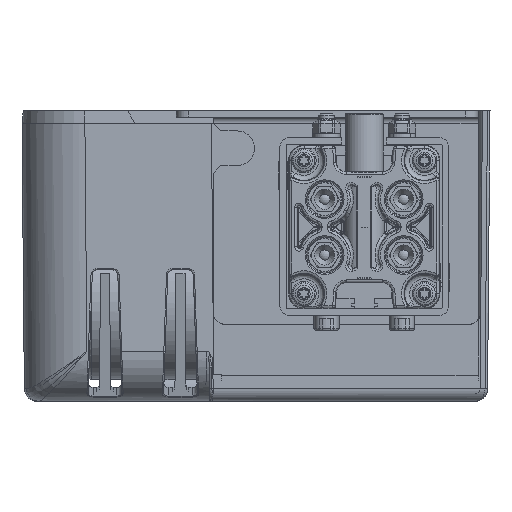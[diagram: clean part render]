
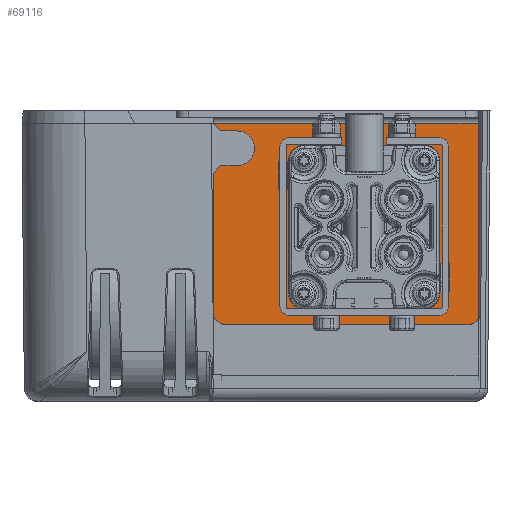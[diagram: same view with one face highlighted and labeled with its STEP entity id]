
A CAD part, left-side view. The second image highlights one B-rep face of the part: STEP entity #69116.
In plain terms, the highlighted planar face has unit normal (-1, 0, 0) as drawn and (0, 0, 1) by its records, which use the part's own axes.
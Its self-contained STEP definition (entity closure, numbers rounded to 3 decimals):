
#7376=LINE('',#128810,#11049);
#7377=LINE('',#128813,#11050);
#7378=LINE('',#128815,#11051);
#7379=LINE('',#128817,#11052);
#7380=LINE('',#128818,#11053);
#7381=LINE('',#128821,#11054);
#7382=LINE('',#128823,#11055);
#7383=LINE('',#128825,#11056);
#7384=LINE('',#128834,#11057);
#7385=LINE('',#128837,#11058);
#7386=LINE('',#128839,#11059);
#7387=LINE('',#128841,#11060);
#7388=LINE('',#128843,#11061);
#7389=LINE('',#128845,#11062);
#7390=LINE('',#128847,#11063);
#7391=LINE('',#128849,#11064);
#7392=LINE('',#128851,#11065);
#7393=LINE('',#128853,#11066);
#11049=VECTOR('',#83059,1000.);
#11050=VECTOR('',#83060,1000.);
#11051=VECTOR('',#83061,1000.);
#11052=VECTOR('',#83062,1000.);
#11053=VECTOR('',#83063,1000.);
#11054=VECTOR('',#83064,1000.);
#11055=VECTOR('',#83065,1000.);
#11056=VECTOR('',#83066,1000.);
#11057=VECTOR('',#83075,1000.);
#11058=VECTOR('',#83076,1000.);
#11059=VECTOR('',#83077,1000.);
#11060=VECTOR('',#83078,1000.);
#11061=VECTOR('',#83079,1000.);
#11062=VECTOR('',#83080,1000.);
#11063=VECTOR('',#83081,1000.);
#11064=VECTOR('',#83082,1000.);
#11065=VECTOR('',#83083,1000.);
#11066=VECTOR('',#83084,1000.);
#13430=PLANE('',#73654);
#22037=ORIENTED_EDGE('',*,*,#36993,.T.);
#22038=ORIENTED_EDGE('',*,*,#36994,.T.);
#22039=ORIENTED_EDGE('',*,*,#36995,.T.);
#22040=ORIENTED_EDGE('',*,*,#36996,.T.);
#22041=ORIENTED_EDGE('',*,*,#36997,.T.);
#22042=ORIENTED_EDGE('',*,*,#36998,.T.);
#22043=ORIENTED_EDGE('',*,*,#36999,.T.);
#22044=ORIENTED_EDGE('',*,*,#37000,.T.);
#22045=ORIENTED_EDGE('',*,*,#37001,.F.);
#22046=ORIENTED_EDGE('',*,*,#37002,.F.);
#22047=ORIENTED_EDGE('',*,*,#37003,.F.);
#22048=ORIENTED_EDGE('',*,*,#37004,.F.);
#22049=ORIENTED_EDGE('',*,*,#37005,.F.);
#22050=ORIENTED_EDGE('',*,*,#37006,.T.);
#22051=ORIENTED_EDGE('',*,*,#37007,.F.);
#22052=ORIENTED_EDGE('',*,*,#37008,.F.);
#22053=ORIENTED_EDGE('',*,*,#37009,.F.);
#22054=ORIENTED_EDGE('',*,*,#37010,.T.);
#22055=ORIENTED_EDGE('',*,*,#37011,.F.);
#22056=ORIENTED_EDGE('',*,*,#37012,.T.);
#22057=ORIENTED_EDGE('',*,*,#37013,.T.);
#22058=ORIENTED_EDGE('',*,*,#37014,.F.);
#22059=ORIENTED_EDGE('',*,*,#37015,.F.);
#36993=EDGE_CURVE('',#45025,#45026,#7376,.T.);
#36994=EDGE_CURVE('',#45026,#45027,#7377,.T.);
#36995=EDGE_CURVE('',#45027,#45028,#7378,.T.);
#36996=EDGE_CURVE('',#45028,#45025,#7379,.T.);
#36997=EDGE_CURVE('',#45029,#45030,#7380,.T.);
#36998=EDGE_CURVE('',#45030,#45031,#7381,.T.);
#36999=EDGE_CURVE('',#45031,#45032,#7382,.T.);
#37000=EDGE_CURVE('',#45032,#45029,#7383,.T.);
#37001=EDGE_CURVE('',#45033,#45033,#49598,.T.);
#37002=EDGE_CURVE('',#45034,#45034,#49599,.T.);
#37003=EDGE_CURVE('',#45035,#45035,#49600,.T.);
#37004=EDGE_CURVE('',#45036,#45036,#49601,.T.);
#37005=EDGE_CURVE('',#45037,#45038,#7384,.T.);
#37006=EDGE_CURVE('',#45037,#45039,#7385,.F.);
#37007=EDGE_CURVE('',#45040,#45039,#7386,.T.);
#37008=EDGE_CURVE('',#45041,#45040,#7387,.T.);
#37009=EDGE_CURVE('',#45042,#45041,#7388,.T.);
#37010=EDGE_CURVE('',#45042,#45043,#7389,.T.);
#37011=EDGE_CURVE('',#45044,#45043,#7390,.T.);
#37012=EDGE_CURVE('',#45044,#45045,#7391,.T.);
#37013=EDGE_CURVE('',#45045,#45046,#7392,.F.);
#37014=EDGE_CURVE('',#45047,#45046,#7393,.T.);
#37015=EDGE_CURVE('',#45038,#45047,#49602,.F.);
#45025=VERTEX_POINT('',#128811);
#45026=VERTEX_POINT('',#128812);
#45027=VERTEX_POINT('',#128814);
#45028=VERTEX_POINT('',#128816);
#45029=VERTEX_POINT('',#128819);
#45030=VERTEX_POINT('',#128820);
#45031=VERTEX_POINT('',#128822);
#45032=VERTEX_POINT('',#128824);
#45033=VERTEX_POINT('',#128827);
#45034=VERTEX_POINT('',#128829);
#45035=VERTEX_POINT('',#128831);
#45036=VERTEX_POINT('',#128833);
#45037=VERTEX_POINT('',#128835);
#45038=VERTEX_POINT('',#128836);
#45039=VERTEX_POINT('',#128838);
#45040=VERTEX_POINT('',#128840);
#45041=VERTEX_POINT('',#128842);
#45042=VERTEX_POINT('',#128844);
#45043=VERTEX_POINT('',#128846);
#45044=VERTEX_POINT('',#128848);
#45045=VERTEX_POINT('',#128850);
#45046=VERTEX_POINT('',#128852);
#45047=VERTEX_POINT('',#128854);
#49598=CIRCLE('',#73655,3.4);
#49599=CIRCLE('',#73656,3.4);
#49600=CIRCLE('',#73657,3.4);
#49601=CIRCLE('',#73658,12.5);
#49602=CIRCLE('',#73659,6.9);
#52649=EDGE_LOOP('',(#22037,#22038,#22039,#22040));
#52650=EDGE_LOOP('',(#22041,#22042,#22043,#22044));
#52651=EDGE_LOOP('',(#22045));
#52652=EDGE_LOOP('',(#22046));
#52653=EDGE_LOOP('',(#22047));
#52654=EDGE_LOOP('',(#22048));
#52655=EDGE_LOOP('',(#22049,#22050,#22051,#22052,#22053,#22054,#22055,#22056,
#22057,#22058,#22059));
#57069=FACE_BOUND('',#52649,.T.);
#57070=FACE_BOUND('',#52650,.T.);
#57071=FACE_BOUND('',#52651,.T.);
#57072=FACE_BOUND('',#52652,.T.);
#57073=FACE_BOUND('',#52653,.T.);
#57074=FACE_BOUND('',#52654,.T.);
#57075=FACE_BOUND('',#52655,.T.);
#69116=ADVANCED_FACE('',(#57069,#57070,#57071,#57072,#57073,#57074,#57075),
#13430,.F.);
#73654=AXIS2_PLACEMENT_3D('',#128809,#83057,#83058);
#73655=AXIS2_PLACEMENT_3D('',#128826,#83067,#83068);
#73656=AXIS2_PLACEMENT_3D('',#128828,#83069,#83070);
#73657=AXIS2_PLACEMENT_3D('',#128830,#83071,#83072);
#73658=AXIS2_PLACEMENT_3D('',#128832,#83073,#83074);
#73659=AXIS2_PLACEMENT_3D('',#128855,#83085,#83086);
#83057=DIRECTION('',(0.,0.,-1.));
#83058=DIRECTION('',(-1.,0.,0.));
#83059=DIRECTION('',(0.,1.,0.));
#83060=DIRECTION('',(1.,0.,0.));
#83061=DIRECTION('',(0.,-1.,0.));
#83062=DIRECTION('',(-1.,0.,0.));
#83063=DIRECTION('',(0.,1.,0.));
#83064=DIRECTION('',(1.,0.,0.));
#83065=DIRECTION('',(0.,-1.,0.));
#83066=DIRECTION('',(-1.,0.,0.));
#83067=DIRECTION('',(0.,0.,1.));
#83068=DIRECTION('',(1.,0.,0.));
#83069=DIRECTION('',(0.,0.,1.));
#83070=DIRECTION('',(1.,0.,0.));
#83071=DIRECTION('',(0.,0.,1.));
#83072=DIRECTION('',(1.,0.,0.));
#83073=DIRECTION('',(0.,0.,1.));
#83074=DIRECTION('',(1.,0.,0.));
#83075=DIRECTION('',(1.,0.,0.));
#83076=DIRECTION('',(0.707,0.707,0.));
#83077=DIRECTION('',(0.,1.,0.));
#83078=DIRECTION('',(-1.,0.,0.));
#83079=DIRECTION('',(0.,1.,0.));
#83080=DIRECTION('',(1.,0.,0.));
#83081=DIRECTION('',(0.,-1.,0.));
#83082=DIRECTION('',(-1.,0.,0.));
#83083=DIRECTION('',(-0.707,0.707,0.));
#83084=DIRECTION('',(-1.,0.,0.));
#83085=DIRECTION('',(0.,0.,-1.));
#83086=DIRECTION('',(-1.,0.,0.));
#128809=CARTESIAN_POINT('',(102.,60.25,2.5));
#128810=CARTESIAN_POINT('',(22.75,60.25,2.5));
#128811=CARTESIAN_POINT('',(22.75,30.5,2.5));
#128812=CARTESIAN_POINT('',(22.75,41.5,2.5));
#128813=CARTESIAN_POINT('',(102.,41.5,2.5));
#128814=CARTESIAN_POINT('',(26.25,41.5,2.5));
#128815=CARTESIAN_POINT('',(26.25,60.25,2.5));
#128816=CARTESIAN_POINT('',(26.25,30.5,2.5));
#128817=CARTESIAN_POINT('',(102.,30.5,2.5));
#128818=CARTESIAN_POINT('',(87.25,60.25,2.5));
#128819=CARTESIAN_POINT('',(87.25,-10.,2.5));
#128820=CARTESIAN_POINT('',(87.25,1.,2.5));
#128821=CARTESIAN_POINT('',(102.,1.,2.5));
#128822=CARTESIAN_POINT('',(90.75,1.,2.5));
#128823=CARTESIAN_POINT('',(90.75,60.25,2.5));
#128824=CARTESIAN_POINT('',(90.75,-10.,2.5));
#128825=CARTESIAN_POINT('',(102.,-10.,2.5));
#128826=CARTESIAN_POINT('',(56.75,-9.9,2.5));
#128827=CARTESIAN_POINT('',(60.15,-9.9,2.5));
#128828=CARTESIAN_POINT('',(78.747,28.2,2.5));
#128829=CARTESIAN_POINT('',(82.147,28.2,2.5));
#128830=CARTESIAN_POINT('',(34.753,28.2,2.5));
#128831=CARTESIAN_POINT('',(38.153,28.2,2.5));
#128832=CARTESIAN_POINT('',(56.75,15.5,2.5));
#128833=CARTESIAN_POINT('',(69.25,15.5,2.5));
#128834=CARTESIAN_POINT('',(102.,39.95,2.5));
#128835=CARTESIAN_POINT('',(-0.25,39.95,2.5));
#128836=CARTESIAN_POINT('',(6.25,39.95,2.5));
#128837=CARTESIAN_POINT('',(-3.25,36.95,2.5));
#128838=CARTESIAN_POINT('',(-3.25,36.95,2.5));
#128839=CARTESIAN_POINT('',(-3.25,60.25,2.5));
#128840=CARTESIAN_POINT('',(-3.25,-43.199,2.5));
#128841=CARTESIAN_POINT('',(0.,-43.199,2.5));
#128842=CARTESIAN_POINT('',(0.,-43.199,2.5));
#128843=CARTESIAN_POINT('',(0.,-48.199,2.5));
#128844=CARTESIAN_POINT('',(0.,-43.3,2.5));
#128845=CARTESIAN_POINT('',(-75.74,-43.3,2.5));
#128846=CARTESIAN_POINT('',(102.,-43.3,2.5));
#128847=CARTESIAN_POINT('',(102.,60.25,2.5));
#128848=CARTESIAN_POINT('',(102.,56.75,2.5));
#128849=CARTESIAN_POINT('',(312.5,56.75,2.5));
#128850=CARTESIAN_POINT('',(-3.25,56.75,2.5));
#128851=CARTESIAN_POINT('',(-0.25,53.75,2.5));
#128852=CARTESIAN_POINT('',(-0.25,53.75,2.5));
#128853=CARTESIAN_POINT('',(102.,53.75,2.5));
#128854=CARTESIAN_POINT('',(6.25,53.75,2.5));
#128855=CARTESIAN_POINT('',(6.25,46.85,2.5));
